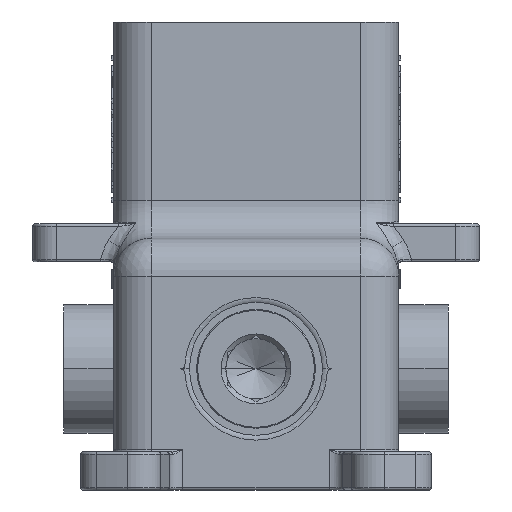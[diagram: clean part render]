
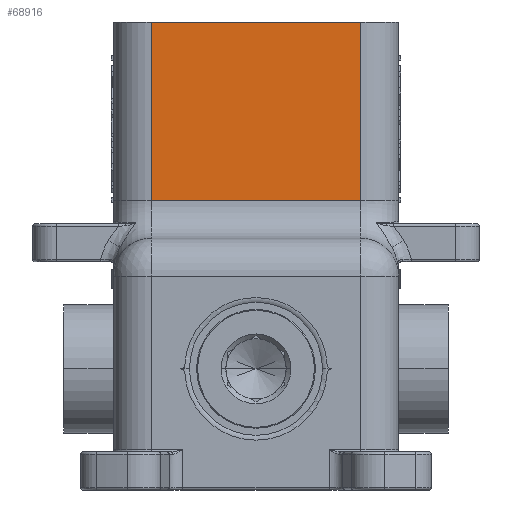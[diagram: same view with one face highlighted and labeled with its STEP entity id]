
A CAD part, front view. The second image highlights one B-rep face of the part: STEP entity #68916.
In plain terms, the highlighted planar face has unit normal (0, -1, 0).
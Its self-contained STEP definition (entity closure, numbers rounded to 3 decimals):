
#6776=DIRECTION('',(0.,0.,1.));
#6777=VECTOR('',#6776,37.5);
#6778=CARTESIAN_POINT('',(22.,-20.5,35.5));
#6779=LINE('',#6778,#6777);
#6784=DIRECTION('',(1.,0.,0.));
#6785=VECTOR('',#6784,44.);
#6786=CARTESIAN_POINT('',(-22.,-20.5,35.5));
#6787=LINE('',#6786,#6785);
#6792=DIRECTION('',(0.,0.,-1.));
#6793=VECTOR('',#6792,37.5);
#6794=CARTESIAN_POINT('',(-22.,-20.5,73.));
#6795=LINE('',#6794,#6793);
#7424=DIRECTION('',(1.,0.,0.));
#7425=VECTOR('',#7424,44.);
#7426=CARTESIAN_POINT('',(-22.,-20.5,73.));
#7427=LINE('',#7426,#7425);
#55456=CARTESIAN_POINT('',(-22.,-20.5,35.5));
#55457=CARTESIAN_POINT('',(22.,-20.5,35.5));
#55458=VERTEX_POINT('',#55456);
#55459=VERTEX_POINT('',#55457);
#58569=CARTESIAN_POINT('',(-22.,-20.5,73.));
#58571=VERTEX_POINT('',#58569);
#58572=CARTESIAN_POINT('',(22.,-20.5,73.));
#58574=VERTEX_POINT('',#58572);
#68902=CARTESIAN_POINT('',(-30.,-20.5,74.5));
#68903=DIRECTION('',(0.,1.,0.));
#68904=DIRECTION('',(0.,0.,-1.));
#68905=AXIS2_PLACEMENT_3D('',#68902,#68903,#68904);
#68906=PLANE('',#68905);
#68908=ORIENTED_EDGE('',*,*,#68907,.F.);
#68910=ORIENTED_EDGE('',*,*,#68909,.T.);
#68911=ORIENTED_EDGE('',*,*,#68892,.F.);
#68913=ORIENTED_EDGE('',*,*,#68912,.F.);
#68914=EDGE_LOOP('',(#68908,#68910,#68911,#68913));
#68915=FACE_OUTER_BOUND('',#68914,.F.);
#68916=ADVANCED_FACE('',(#68915),#68906,.F.);
#68892=EDGE_CURVE('',#55459,#58574,#6779,.T.);
#68907=EDGE_CURVE('',#58571,#55458,#6795,.T.);
#68909=EDGE_CURVE('',#58571,#58574,#7427,.T.);
#68912=EDGE_CURVE('',#55458,#55459,#6787,.T.);
